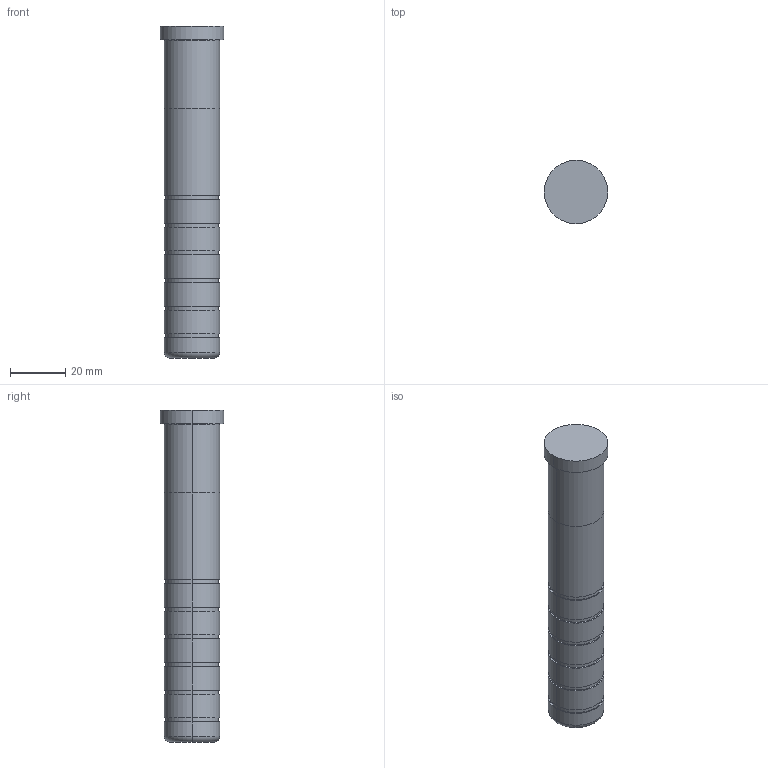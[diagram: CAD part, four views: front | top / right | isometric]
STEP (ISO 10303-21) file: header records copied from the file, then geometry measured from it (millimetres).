
FILE_DESCRIPTION(/* description */ (''),/* implementation_level */ '2;1');
FILE_NAME(/* name */ '3d_sgoh20-120_05209_r00.stp',/* time_stamp */ '2011-01-10T14:11:09+09:00',/* author */ ('MISUMI'),/* organization */ (''),/* preprocessor_version */ 'ST-DEVELOPER v11',/* originating_system */ 'UGS - NX 5.0',/* authorisation */ '');
FILE_SCHEMA (('CONFIG_CONTROL_DESIGN'));
Length unit declared in the file: millimetre
Products named in the file (1): 3d_sgoh20-120_05209_r00
Bounding box: 23 x 23 x 120 mm (x, y, z)
Volume: 37879.3 mm3; surface area: 8694.8 mm2
Topology: 1 solids, 1 shells, 49 faces, 96 edges, 62 vertices
Faces by surface type: cylinder 30, plane 15, torus 4
Entity records: 1374 total; most frequent: DIRECTION 262, CARTESIAN_POINT 208, ORIENTED_EDGE 192, AXIS2_PLACEMENT_3D 116, EDGE_CURVE 96, CIRCLE 66, EDGE_LOOP 62, VERTEX_POINT 62
